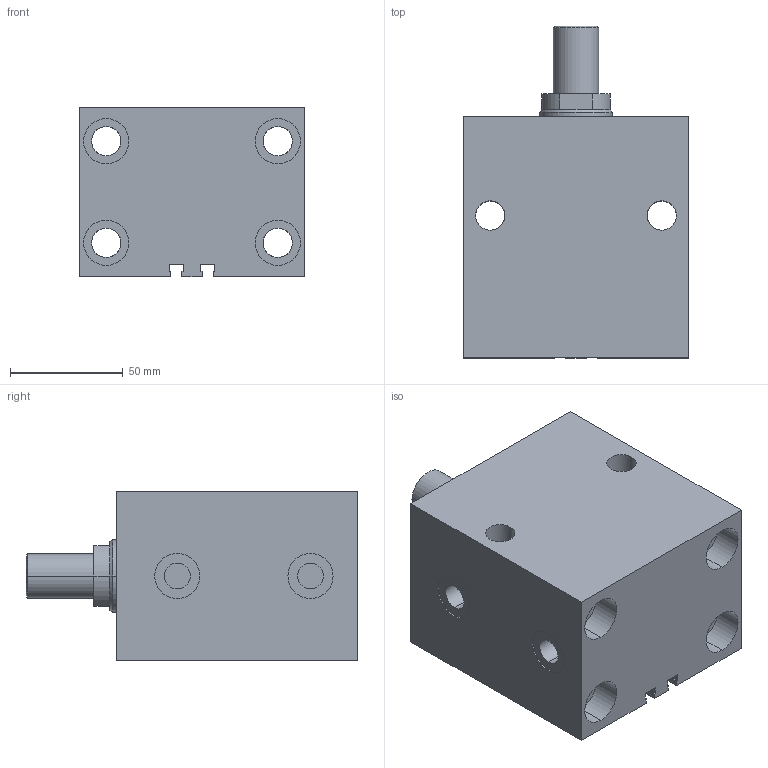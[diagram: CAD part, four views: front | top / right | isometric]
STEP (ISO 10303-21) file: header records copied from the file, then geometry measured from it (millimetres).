
FILE_DESCRIPTION (( 'STEP AP203' ), '1' );
FILE_NAME ('GERMA_Blockzylinder_700-050-025-A.STEP', '2016-07-23T13:10:00', ( '' ), ( '' ), 'SwSTEP 2.0', 'SolidWorks 2015', '' );
FILE_SCHEMA (( 'CONFIG_CONTROL_DESIGN' ));
Length unit declared in the file: millimetre
Products named in the file (3): GH-700-050_GH-700-050-025; Kolben_MT 70x-050_Kolben_MT DU.50-Hub25-AG; GERMA_Blockzylinder_700-050-025-A
Assembly tree (2 placements, depth 2):
  GERMA_Blockzylinder_700-050-025-A
    GH-700-050_GH-700-050-025
    Kolben_MT 70x-050_Kolben_MT DU.50-Hub25-AG
Bounding box: 100 x 147 x 75 mm (x, y, z)
Volume: 689793.5 mm3; surface area: 110790.2 mm2
Topology: 2 solids, 2 shells, 132 faces, 312 edges, 193 vertices
Faces by surface type: cylinder 73, plane 47, cone 12
Entity records: 4106 total; most frequent: CARTESIAN_POINT 734, DIRECTION 675, ORIENTED_EDGE 616, EDGE_CURVE 308, AXIS2_PLACEMENT_3D 262, VERTEX_POINT 193, EDGE_LOOP 165, LINE 151
